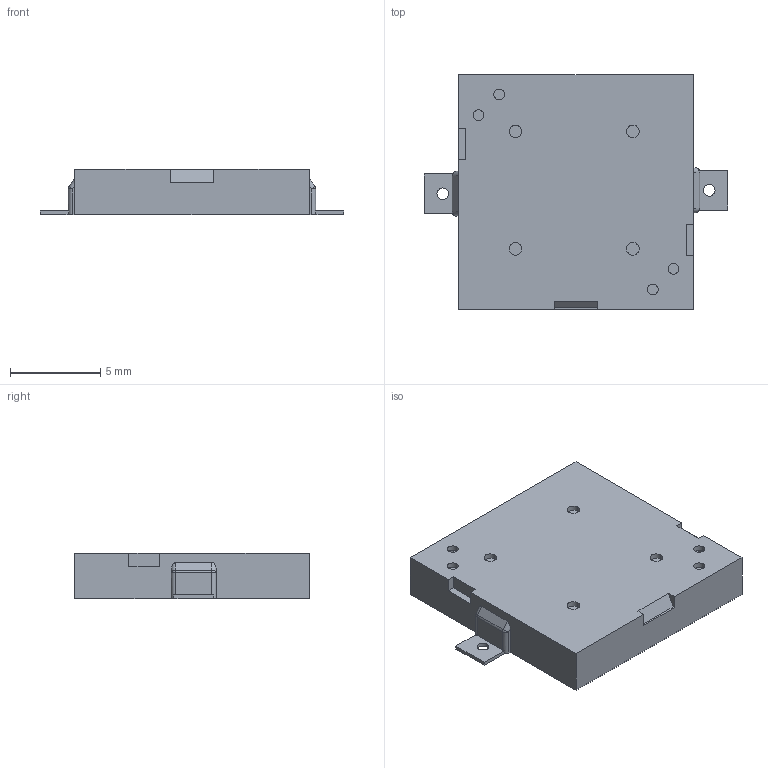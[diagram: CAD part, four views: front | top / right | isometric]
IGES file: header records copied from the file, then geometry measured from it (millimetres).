
Global section: file name: No Iges File Name specified; native system: Autodesk Inventor 2011; preprocessor: AutoDesk Inventor Iges Exporter R2011; author: Dunn; date: 20120112.084904; units: millimetre
Bounding box: 16.8 x 13 x 2.5 mm (x, y, z)
Volume: 352.3 mm3; surface area: 813.1 mm2
Topology: 1 solids, 1 shells, 88 faces, 234 edges, 152 vertices
Faces by surface type: plane 54, revolution 20, cylinder 10, sphere 4
